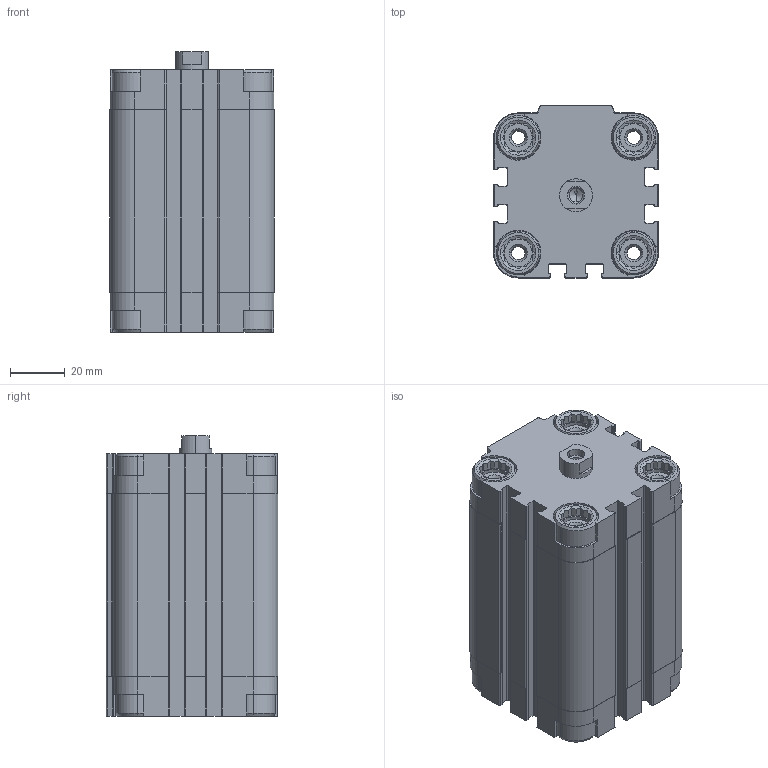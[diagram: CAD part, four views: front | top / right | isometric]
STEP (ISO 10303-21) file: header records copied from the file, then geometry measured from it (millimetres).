
FILE_DESCRIPTION (( 'STEP AP203' ), '1' );
FILE_NAME ('CDVU40-50F.STEP', '2020-03-30T14:59:20', ( '' ), ( '' ), 'SwSTEP 2.0', 'SolidWorks 2019', '' );
FILE_SCHEMA (( 'CONFIG_CONTROL_DESIGN' ));
Length unit declared in the file: millimetre
Products named in the file (1): CDVU40-50F
Bounding box: 60 x 62.5 x 102 mm (x, y, z)
Volume: 246111.3 mm3; surface area: 65630.9 mm2
Topology: 2 solids, 2 shells, 709 faces, 1894 edges, 1223 vertices
Faces by surface type: plane 417, cylinder 230, cone 62
Entity records: 22229 total; most frequent: CARTESIAN_POINT 4397, ORIENTED_EDGE 3776, DIRECTION 3636, EDGE_CURVE 1888, AXIS2_PLACEMENT_3D 1230, VERTEX_POINT 1223, LINE 1176, VECTOR 1176
